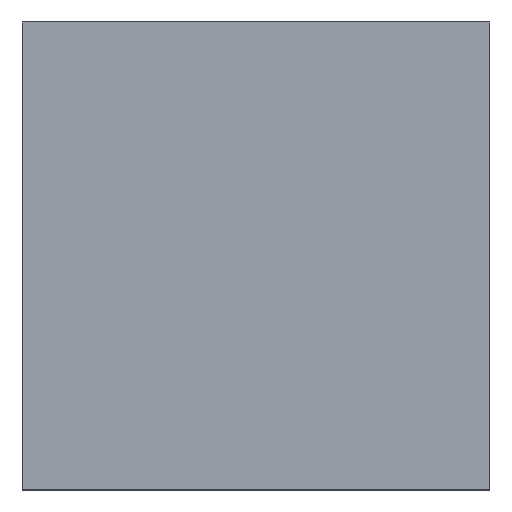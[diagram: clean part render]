
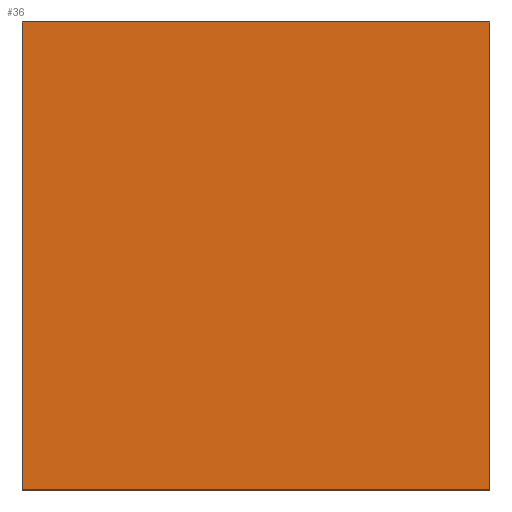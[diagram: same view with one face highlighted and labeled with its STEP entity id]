
A CAD part, top view. The second image highlights one B-rep face of the part: STEP entity #36.
In plain terms, the highlighted planar face has unit normal (0, 0, 1).
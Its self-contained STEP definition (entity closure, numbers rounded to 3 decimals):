
#36=ADVANCED_FACE('',(#96),#776,.T.);
#96=FACE_OUTER_BOUND('',#156,.T.);
#156=EDGE_LOOP('',(#228,#229,#230,#231));
#228=ORIENTED_EDGE('',*,*,#463,.F.);
#229=ORIENTED_EDGE('',*,*,#460,.F.);
#230=ORIENTED_EDGE('',*,*,#457,.F.);
#231=ORIENTED_EDGE('',*,*,#454,.F.);
#454=EDGE_CURVE('',#694,#695,#574,.T.);
#457=EDGE_CURVE('',#695,#697,#577,.T.);
#460=EDGE_CURVE('',#697,#699,#580,.T.);
#463=EDGE_CURVE('',#699,#694,#583,.T.);
#574=B_SPLINE_CURVE_WITH_KNOTS('',1,(#1064,#1065),.UNSPECIFIED.,.F.,.F.,
(2,2),(0.,370.),.UNSPECIFIED.);
#577=B_SPLINE_CURVE_WITH_KNOTS('',1,(#1070,#1071),.UNSPECIFIED.,.F.,.F.,
(2,2),(0.,370.),.UNSPECIFIED.);
#580=B_SPLINE_CURVE_WITH_KNOTS('',1,(#1076,#1077),.UNSPECIFIED.,.F.,.F.,
(2,2),(0.,370.),.UNSPECIFIED.);
#583=B_SPLINE_CURVE_WITH_KNOTS('',1,(#1082,#1083),.UNSPECIFIED.,.F.,.F.,
(2,2),(0.,370.),.UNSPECIFIED.);
#694=VERTEX_POINT('',#1054);
#695=VERTEX_POINT('',#1055);
#697=VERTEX_POINT('',#1057);
#699=VERTEX_POINT('',#1059);
#776=PLANE('',#924);
#924=AXIS2_PLACEMENT_3D('',#1050,#987,$);
#987=DIRECTION('',(0.,0.,1.));
#1050=CARTESIAN_POINT('',(222.12,222.12,540.));
#1054=CARTESIAN_POINT('',(-185.,-185.,540.));
#1055=CARTESIAN_POINT('',(-185.,185.,540.));
#1057=CARTESIAN_POINT('',(185.,185.,540.));
#1059=CARTESIAN_POINT('',(185.,-185.,540.));
#1064=CARTESIAN_POINT('',(-185.,-185.,540.));
#1065=CARTESIAN_POINT('',(-185.,185.,540.));
#1070=CARTESIAN_POINT('',(-185.,185.,540.));
#1071=CARTESIAN_POINT('',(185.,185.,540.));
#1076=CARTESIAN_POINT('',(185.,185.,540.));
#1077=CARTESIAN_POINT('',(185.,-185.,540.));
#1082=CARTESIAN_POINT('',(185.,-185.,540.));
#1083=CARTESIAN_POINT('',(-185.,-185.,540.));
